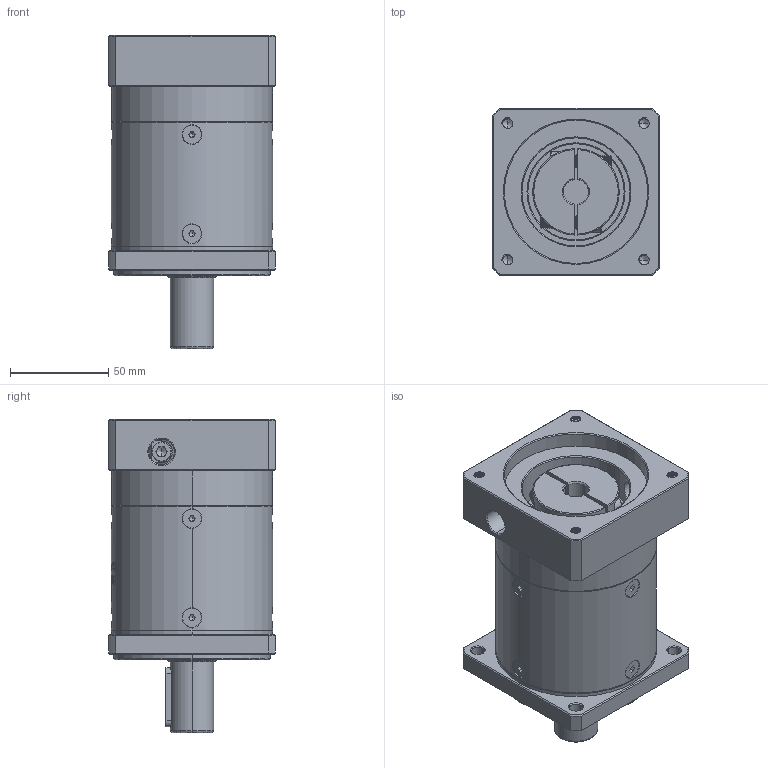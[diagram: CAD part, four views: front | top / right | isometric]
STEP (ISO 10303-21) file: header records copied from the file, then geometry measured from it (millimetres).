
FILE_DESCRIPTION (( 'STEP AP214' ), '1' );
FILE_NAME ('ZF080-D22-L2-P2-12.7-73-69.6X69.6-M6.step', '2023-08-19T05:31:51', ( '' ), ( '' ), 'SwSTEP 2.0', 'SolidWorks 2016', '' );
FILE_SCHEMA (( 'AUTOMOTIVE_DESIGN' ));
Length unit declared in the file: millimetre
Products named in the file (1): ZF080-D22-L2-P2-12.7-73-69.6X69.6-M6
Bounding box: 85 x 85 x 159.5 mm (x, y, z)
Volume: 650116.2 mm3; surface area: 94252.5 mm2
Topology: 13 solids, 13 shells, 2232 faces, 5845 edges, 3712 vertices
Faces by surface type: plane 1071, bspline 394, cylinder 390, cone 340, torus 37
Entity records: 119188 total; most frequent: CARTESIAN_POINT 44761, ORIENTED_EDGE 11630, DIRECTION 8627, EDGE_CURVE 5815, VERTEX_POINT 3712, LINE 3093, VECTOR 3093, AXIS2_PLACEMENT_3D 2767
